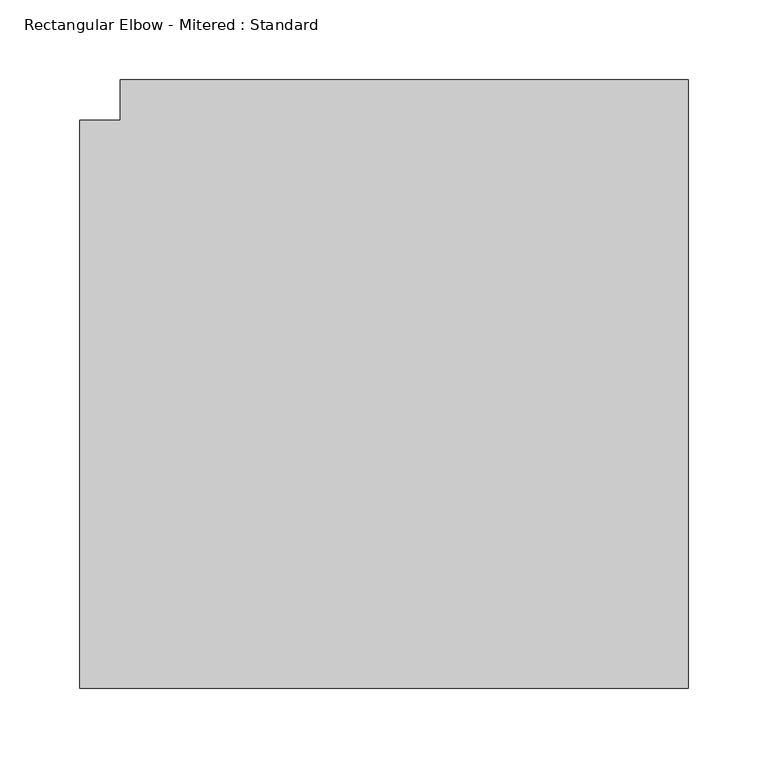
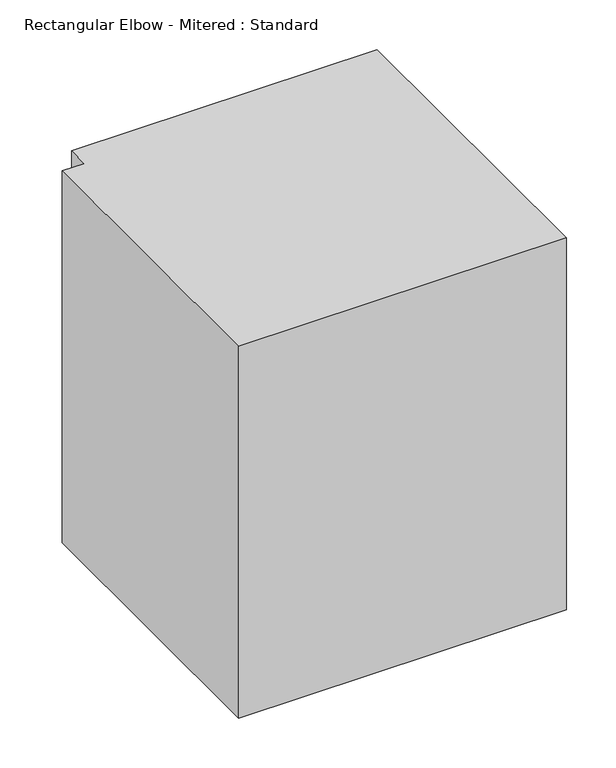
"""IFC4 building model written with IfcOpenShell, lengths in millimetres: duct fitting geometry, Rectangular Elbow - Mitered : Standard."""

from ifc_helpers import new_model, si_unit, frame, origin, place, context, project, spatial, polyline, outline, extrude, source, transform, mapped, element, save


def rectangular_elbow_mitered_standard_39dc9af9(model_context):
    return source(origin(), model_context, "Body", "SweptSolid", [
        extrude(outline(polyline([(-203.2, -177.8), (-203.2, 177.8), (-177.8, 177.8), (-177.8, 203.2), (177.8, 203.2), (177.8, -177.8), (-203.2, -177.8)])), frame((0.0, 0.0, -228.6), z_axis=(0.0, 0.0, 1.0), x_axis=(1.0, 0.0, 0.0)), (0.0, 0.0, 1.0), 457.2),
    ])


if __name__ == "__main__":
    model = new_model("IFC4")
    model_context = context("Model", 3, world=origin())
    ifc_project = project(units=[si_unit("LENGTHUNIT", "METRE", prefix="MILLI")], contexts=[model_context])
    site = spatial("IfcSite", under=ifc_project)
    building = spatial("IfcBuilding", under=site)
    placement = place(None, origin())
    rectangular_elbow_mitered_standard_shape = rectangular_elbow_mitered_standard_39dc9af9(model_context)
    element("IfcDuctFitting", 1, ObjectType="Rectangular Elbow - Mitered : Standard", at=placement, inside=building, context=model_context, shape_type="MappedRepresentation", body=[
        mapped(rectangular_elbow_mitered_standard_shape, transform((0.0, 0.0, 0.0), x_axis=(1.0, 0.0, 0.0), y_axis=(0.0, 1.0, 0.0), z_axis=(0.0, 0.0, 1.0))),
    ])
    save(model, "model.ifc")
